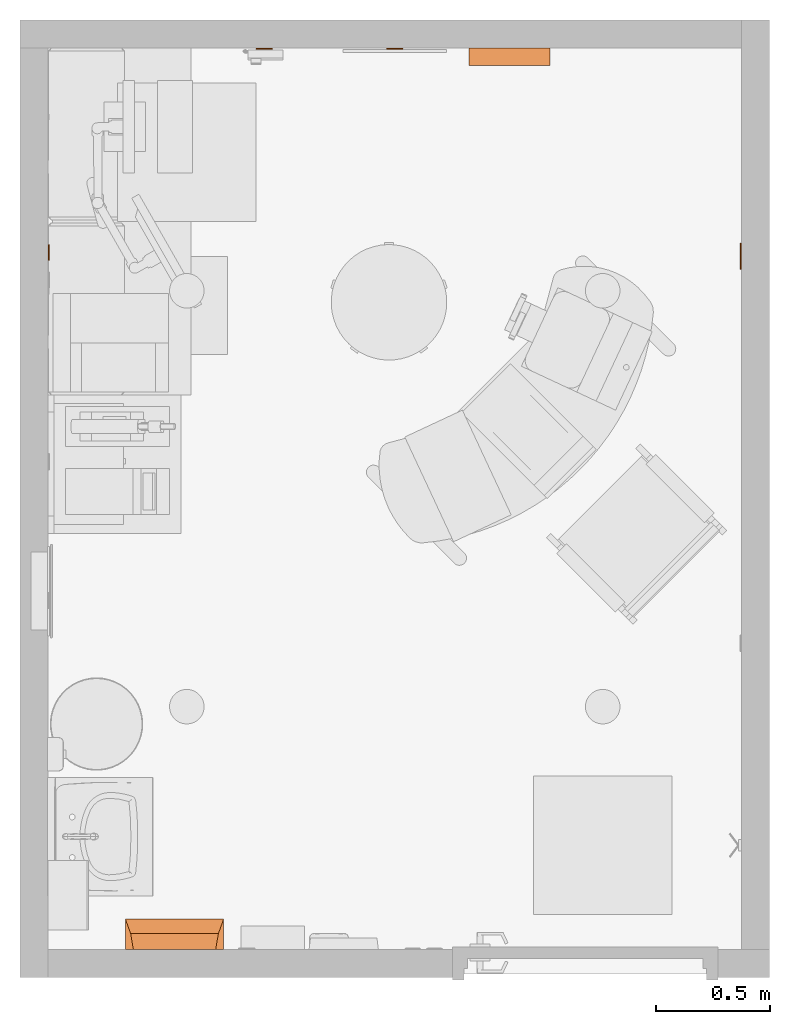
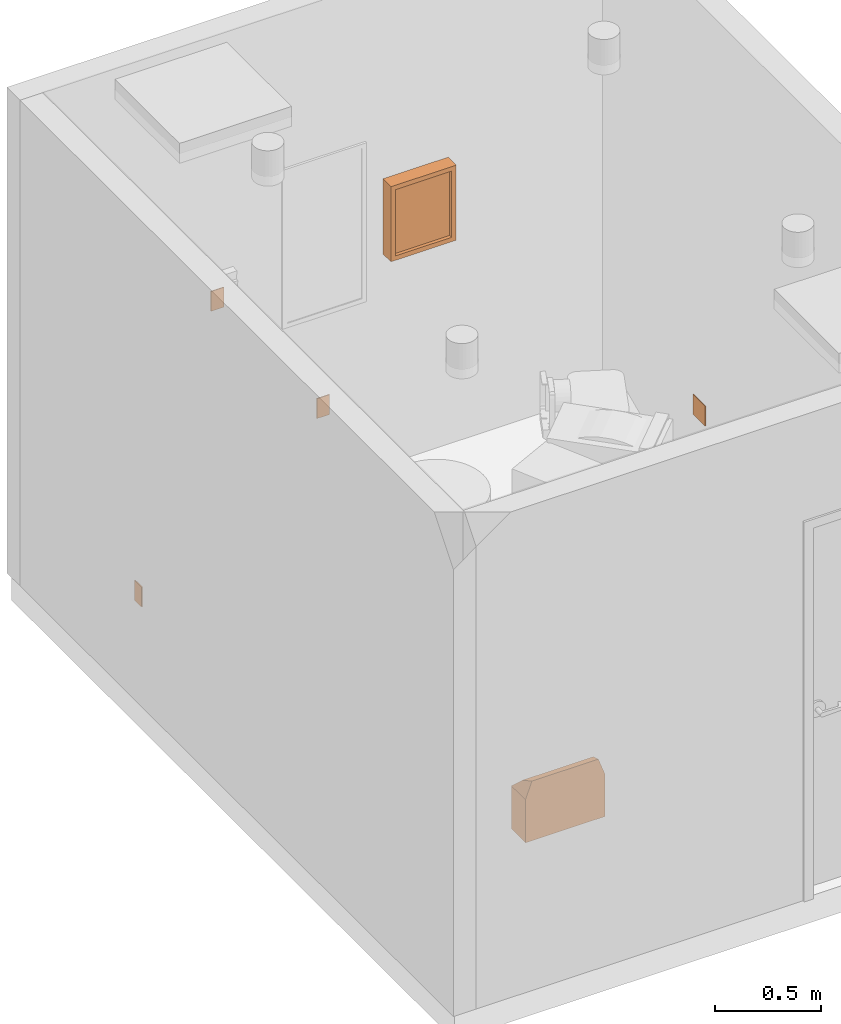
# One storey, part 7 of 12: 6 proxies.
"""IFC2X3 building model written with IfcOpenShell, lengths in feet."""

from ifc_helpers import new_model, entity, si_unit, converted_unit, derived_unit, direction, frame, frame_2d, origin, origin_2d_with_axis, place, context, subcontext, project, spatial, rectangle, extrude, faceted_brep, source, transform, mapped, type_object, type_shapes, element, save


model = new_model("IFC2X3")

# Units and contexts
model_context = context("Model", 3, precision=0.0001, world=origin(), true_north=direction((6.12303176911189e-17, 1.0)))
body_context = subcontext(model_context, "Body", "Model", "MODEL_VIEW")
ifc_project = project(units=[converted_unit("LENGTHUNIT", "FOOT", entity("IfcRatioMeasure", 0.3048), si_unit("LENGTHUNIT", "METRE"), dimensions=[1, 0, 0, 0, 0, 0, 0]), converted_unit("AREAUNIT", "SQUARE FOOT", entity("IfcRatioMeasure", 0.09290304), si_unit("AREAUNIT", "SQUARE_METRE"), dimensions=[2, 0, 0, 0, 0, 0, 0]), converted_unit("VOLUMEUNIT", "CUBIC FOOT", entity("IfcRatioMeasure", 0.028316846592), si_unit("VOLUMEUNIT", "CUBIC_METRE"), dimensions=[3, 0, 0, 0, 0, 0, 0]), converted_unit("PLANEANGLEUNIT", "DEGREE", entity("IfcRatioMeasure", 0.0174532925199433), si_unit("PLANEANGLEUNIT", "RADIAN"), dimensions=[0, 0, 0, 0, 0, 0, 0]), si_unit("MASSUNIT", "GRAM", prefix="KILO"), derived_unit("MASSDENSITYUNIT", [(si_unit("MASSUNIT", "GRAM", prefix="KILO"), 1), (si_unit("LENGTHUNIT", "METRE"), -3)]), si_unit("TIMEUNIT", "SECOND"), si_unit("FREQUENCYUNIT", "HERTZ"), si_unit("THERMODYNAMICTEMPERATUREUNIT", "DEGREE_CELSIUS"), derived_unit("THERMALTRANSMITTANCEUNIT", [(si_unit("MASSUNIT", "GRAM", prefix="KILO"), 1), (si_unit("THERMODYNAMICTEMPERATUREUNIT", "KELVIN"), -1), (si_unit("TIMEUNIT", "SECOND"), -3)]), derived_unit("VOLUMETRICFLOWRATEUNIT", [(si_unit("LENGTHUNIT", "METRE"), 3), (si_unit("TIMEUNIT", "SECOND"), -1)]), si_unit("ELECTRICCURRENTUNIT", "AMPERE"), si_unit("ELECTRICVOLTAGEUNIT", "VOLT"), si_unit("POWERUNIT", "WATT"), si_unit("FORCEUNIT", "NEWTON"), si_unit("ILLUMINANCEUNIT", "LUX"), si_unit("LUMINOUSFLUXUNIT", "LUMEN"), si_unit("LUMINOUSINTENSITYUNIT", "CANDELA"), derived_unit("USERDEFINED", [(si_unit("MASSUNIT", "GRAM", prefix="KILO"), -1), (si_unit("LENGTHUNIT", "METRE"), -2), (si_unit("TIMEUNIT", "SECOND"), 3), (si_unit("LUMINOUSFLUXUNIT", "LUMEN"), 1)]), derived_unit("LINEARVELOCITYUNIT", [(si_unit("LENGTHUNIT", "METRE"), 1), (si_unit("TIMEUNIT", "SECOND"), -1)]), si_unit("PRESSUREUNIT", "PASCAL"), derived_unit("USERDEFINED", [(si_unit("LENGTHUNIT", "METRE"), -2), (si_unit("MASSUNIT", "GRAM", prefix="KILO"), 1), (si_unit("TIMEUNIT", "SECOND"), -2)])], contexts=[model_context])

# Site, building, storey
site_placement = place(None, origin())
site = spatial("IfcSite", under=ifc_project, at=site_placement, Name="Default", CompositionType="ELEMENT")
building_placement = place(site_placement, origin())
building = spatial("IfcBuilding", under=site, at=building_placement, Name="EYE CLINIC:  OPTHALMOLOGY AND OPTOMETRY SERVICES (Ch. 233)", CompositionType="ELEMENT")
storey_placement = place(building_placement, origin())
storey = spatial("IfcBuildingStorey", under=building, at=storey_placement, Name="DATUM", CompositionType="ELEMENT", Elevation=0.0)

# Proxy
building_element_proxy_type_1 = type_object("IfcBuildingElementProxyType", Name="A5108 - Waste Disposal Unit, Sharps", PredefinedType="NOTDEFINED")
shared_shape_1 = source(origin(), body_context, "Body", "Brep", [
    faceted_brep([(1.41666666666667, 0.437500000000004, 0.0), (1.41666666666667, 0.0, 0.0), (0.0, 0.0, 0.0), (0.0, 0.437500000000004, 0.0), (1.41666666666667, 0.437500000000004, 0.808422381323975), (1.41666666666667, 0.434933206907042, 0.810989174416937), (1.41666666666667, 0.0, 0.810989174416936), (1.30237607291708, 0.0, 1.125), (0.114290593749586, 0.0, 1.125), (0.0, 0.0, 0.810989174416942), (0.0, 0.434933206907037, 0.810989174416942), (0.0, 0.437500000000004, 0.808422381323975), (0.0758354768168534, 0.226576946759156, 1.01934543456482), (1.34083118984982, 0.226576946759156, 1.01934543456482)], [[[0, 1, 2, 3]], [[0, 4, 5, 6, 1]], [[1, 6, 7, 8, 9, 2]], [[2, 9, 10, 11, 3]], [[3, 11, 4, 0]], [[11, 10, 12, 13, 5, 4]], [[13, 12, 8, 7]], [[5, 13, 7, 6]], [[8, 12, 10, 9]]]),
])
type_shapes(building_element_proxy_type_1, [shared_shape_1])
proxy_1_placement = place(storey_placement, frame((154.754352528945, 21.8076256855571, 2.5)))
element("IfcBuildingElementProxy", 1, at=proxy_1_placement, inside=storey, type_object=building_element_proxy_type_1, Name="A5108 - Waste Disposal Unit, Sharps:A5108 - Waste Disposal Unit, Sharps", ObjectType="A5108 - Waste Disposal Unit, Sharps", context=body_context, shape_type="MappedRepresentation", body=[
    mapped(shared_shape_1, transform((0.0, 0.0, 0.0), scale=1.0)),
])

# Space
space_placement = place(storey_placement, origin())
space = spatial("IfcSpace", under=storey, at=space_placement, Name="(OPPT2)", CompositionType="ELEMENT", InteriorOrExteriorSpace="INTERNAL")

# Proxies
building_element_proxy_type_2 = type_object("IfcBuildingElementProxyType", Name="M5562 - Tester, Visual Acuity, Video-Microprocessor Based", PredefinedType="NOTDEFINED")
shared_shape_2 = source(origin(), body_context, "Body", "Brep", [
    faceted_brep([(0.583333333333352, -0.250000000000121, 1.41666666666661), (-0.583333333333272, -0.250000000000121, 1.41666666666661), (-0.583333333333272, -0.250000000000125, 0.0), (0.583333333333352, -0.250000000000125, 0.0), (-0.499999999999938, -0.250000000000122, 1.33333333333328), (0.500000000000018, -0.250000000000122, 1.33333333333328), (0.500000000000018, -0.250000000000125, 0.0833333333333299), (-0.499999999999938, -0.250000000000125, 0.0833333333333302), (0.583333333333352, 0.0, 1.41666666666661), (0.583333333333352, 0.0, 0.0), (-0.583333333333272, 0.0, 0.0), (-0.583333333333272, 0.0, 1.41666666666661), (0.500000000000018, -0.190421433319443, 1.33333333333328), (-0.499999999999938, -0.190421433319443, 1.33333333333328), (-0.499999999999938, -0.190421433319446, 0.0833333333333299), (0.500000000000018, -0.190421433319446, 0.0833333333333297)], [[[0, 1, 2, 3], [4, 5, 6, 7]], [[8, 9, 10, 11]], [[1, 0, 8, 11]], [[2, 1, 11, 10]], [[3, 2, 10, 9]], [[0, 3, 9, 8]], [[12, 13, 14, 15]], [[13, 12, 5, 4]], [[14, 13, 4, 7]], [[15, 14, 7, 6]], [[12, 15, 6, 5]]]),
])
type_shapes(building_element_proxy_type_2, [shared_shape_2])
proxy_2_placement = place(space_placement, frame((160.296019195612, 34.8076256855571, 4.0)))
element("IfcBuildingElementProxy", 2, at=proxy_2_placement, inside=space, type_object=building_element_proxy_type_2, Name="M5562 - Tester, Visual Acuity, Video-Microprocessor Based:M5562 - Tester, Visual Acuity, Video-Microprocessor Based", ObjectType="M5562 - Tester, Visual Acuity, Video-Microprocessor Based", context=body_context, shape_type="MappedRepresentation", body=[
    mapped(shared_shape_2, transform((0.0, 0.0, 0.0), scale=1.0)),
])
building_element_proxy_type_3 = type_object("IfcBuildingElementProxyType", Name="Duplex", PredefinedType="NOTDEFINED")
shared_shape_3 = source(origin(), body_context, "Body", "SweptSolid", [
    extrude(rectangle(XDim=0.0156249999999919, YDim=0.229166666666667, at=origin_2d_with_axis()), frame((0.0, 0.210937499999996, 0.0), z_axis=(0.0, 0.0, 1.0), x_axis=(0.0, 1.0, 0.0)), (0.0, 0.0, 1.0), 0.37500000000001),
])
type_shapes(building_element_proxy_type_3, [shared_shape_3])
for number, where, z_axis, x_axis, name in (
    (3, (158.639769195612, 35.0107506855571, 1.3125), (0.0, 0.0, 1.0), (-1.0, 0.0, 0.0), "Outlet, Duplex, Wall:Duplex"),
    (4, (153.436644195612, 31.8597090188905, 1.3125), (0.0, 0.0, 1.0), (0.0, -1.0, 0.0), "Outlet, Duplex, Wall:Duplex"),
):
    element("IfcBuildingElementProxy", number, at=place(space_placement, frame(where, z_axis=z_axis, x_axis=x_axis)), inside=space, type_object=building_element_proxy_type_3, Name=name, ObjectType="Duplex", context=body_context, shape_type="MappedRepresentation", body=[
        mapped(shared_shape_3, transform((0.0, 0.0, 0.0), scale=1.0)),
    ])
building_element_proxy_type_4 = type_object("IfcBuildingElementProxyType", Name="Quadraplex", PredefinedType="NOTDEFINED")
shared_shape_4 = source(origin(), body_context, "Body", "SweptSolid", [
    extrude(rectangle(XDim=0.0156249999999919, YDim=0.375, at=frame_2d((0.0, -5.55111512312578e-17), x_axis=(1.0, 0.0))), frame((0.0, 0.210937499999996, 0.0), z_axis=(0.0, 0.0, 1.0), x_axis=(0.0, 1.0, 0.0)), (0.0, 0.0, 1.0), 0.375000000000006),
])
type_shapes(building_element_proxy_type_4, [shared_shape_4])
proxy_3_placement = place(space_placement, frame((163.842894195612, 31.8076256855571, 1.3125), z_axis=(0.0, 0.0, 1.0), x_axis=(0.0, 1.0, 0.0)))
element("IfcBuildingElementProxy", 5, at=proxy_3_placement, inside=space, type_object=building_element_proxy_type_4, Name="Outlet, Quadraplex, Wall:Quadraplex", ObjectType="Quadraplex", context=body_context, shape_type="MappedRepresentation", body=[
    mapped(shared_shape_4, transform((0.0, 0.0, 0.0), scale=1.0)),
])
building_element_proxy_type_5 = type_object("IfcBuildingElementProxyType", Name="Telephone/Data", PredefinedType="NOTDEFINED")
shared_shape_5 = source(origin(), body_context, "Body", "SweptSolid", [
    extrude(rectangle(XDim=0.229166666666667, YDim=0.0156249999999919, at=origin_2d_with_axis()), frame((0.0, -0.210937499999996, 0.0), z_axis=(0.0, 0.0, 1.0), x_axis=(-1.0, 0.0, 0.0)), (0.0, 0.0, 1.0), 0.375),
])
type_shapes(building_element_proxy_type_5, [shared_shape_5])
proxy_4_placement = place(space_placement, frame((156.754352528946, 35.0107506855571, 4.0)))
element("IfcBuildingElementProxy", 6, at=proxy_4_placement, inside=space, type_object=building_element_proxy_type_5, Name="Outlet, Communications:Telephone/Data", ObjectType="Telephone/Data", context=body_context, shape_type="MappedRepresentation", body=[
    mapped(shared_shape_5, transform((0.0, 0.0, 0.0), scale=1.0)),
])

save(model, "model.ifc")
